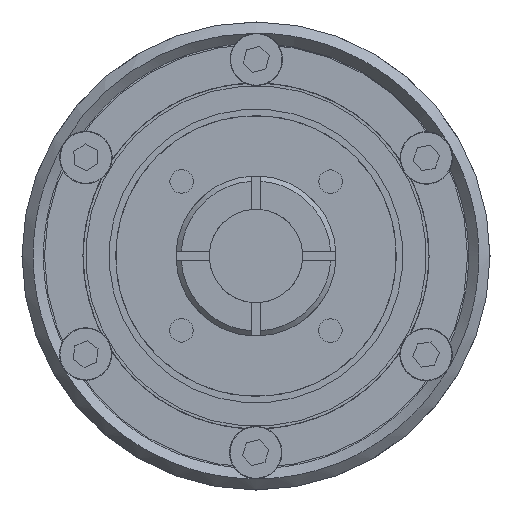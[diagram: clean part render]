
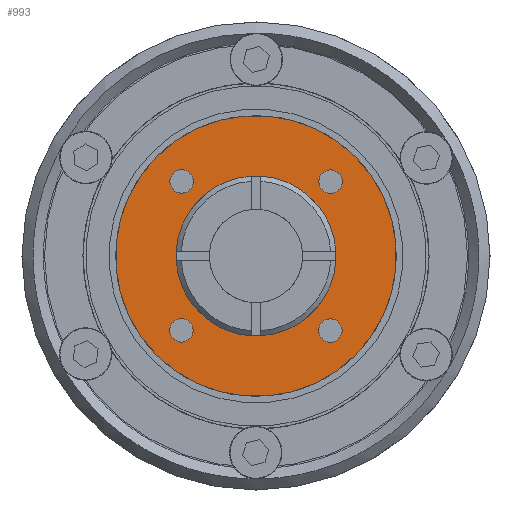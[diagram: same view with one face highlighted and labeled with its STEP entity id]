
A CAD part, left-side view. The second image highlights one B-rep face of the part: STEP entity #993.
In plain terms, the highlighted planar face has unit normal (-1, 0, 0) as drawn and (0, -1, 0) by its records, which use the part's own axes.
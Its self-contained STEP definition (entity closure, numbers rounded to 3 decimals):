
#993 = ADVANCED_FACE( '', ( #1761, #1762, #1763, #1764, #1765, #1766 ), #1767, .F. );
#1761 = FACE_OUTER_BOUND( '', #2604, .T. );
#1762 = FACE_BOUND( '', #2605, .T. );
#1763 = FACE_BOUND( '', #2606, .T. );
#1764 = FACE_BOUND( '', #2607, .T. );
#1765 = FACE_BOUND( '', #2608, .T. );
#1766 = FACE_BOUND( '', #2609, .T. );
#1767 = PLANE( '', #2610 );
#2604 = EDGE_LOOP( '', ( #4163 ) );
#2605 = EDGE_LOOP( '', ( #4164 ) );
#2606 = EDGE_LOOP( '', ( #4165 ) );
#2607 = EDGE_LOOP( '', ( #4166 ) );
#2608 = EDGE_LOOP( '', ( #4167 ) );
#2609 = EDGE_LOOP( '', ( #4168 ) );
#2610 = AXIS2_PLACEMENT_3D( '', #4169, #4170, #4171 );
#4163 = ORIENTED_EDGE( '', *, *, #5472, .T. );
#4164 = ORIENTED_EDGE( '', *, *, #5479, .F. );
#4165 = ORIENTED_EDGE( '', *, *, #5480, .F. );
#4166 = ORIENTED_EDGE( '', *, *, #5481, .F. );
#4167 = ORIENTED_EDGE( '', *, *, #5478, .F. );
#4168 = ORIENTED_EDGE( '', *, *, #5482, .F. );
#4169 = CARTESIAN_POINT( '', ( 0., 0., 15. ) );
#4170 = DIRECTION( '', ( 0., 1., 0. ) );
#4171 = DIRECTION( '', ( 1., 0., 0. ) );
#5472 = EDGE_CURVE( '', #6369, #6369, #6370, .T. );
#5478 = EDGE_CURVE( '', #6381, #6381, #6382, .T. );
#5479 = EDGE_CURVE( '', #6383, #6383, #6384, .T. );
#5480 = EDGE_CURVE( '', #6385, #6385, #6386, .T. );
#5481 = EDGE_CURVE( '', #6387, #6387, #6388, .T. );
#5482 = EDGE_CURVE( '', #6389, #6389, #6390, .T. );
#6369 = VERTEX_POINT( '', #7703 );
#6370 = CIRCLE( '', #7704, 15. );
#6381 = VERTEX_POINT( '', #7715 );
#6382 = CIRCLE( '', #7716, 1.25 );
#6383 = VERTEX_POINT( '', #7717 );
#6384 = CIRCLE( '', #7718, 1.25 );
#6385 = VERTEX_POINT( '', #7719 );
#6386 = CIRCLE( '', #7720, 1.25 );
#6387 = VERTEX_POINT( '', #7721 );
#6388 = CIRCLE( '', #7722, 1.25 );
#6389 = VERTEX_POINT( '', #7723 );
#6390 = CIRCLE( '', #7724, 8.5 );
#7703 = CARTESIAN_POINT( '', ( 0., 0., -15. ) );
#7704 = AXIS2_PLACEMENT_3D( '', #9117, #9118, #9119 );
#7715 = CARTESIAN_POINT( '', ( 1.25, 0., 11.25 ) );
#7716 = AXIS2_PLACEMENT_3D( '', #9135, #9136, #9137 );
#7717 = CARTESIAN_POINT( '', ( -11.25, 0., 1.25 ) );
#7718 = AXIS2_PLACEMENT_3D( '', #9138, #9139, #9140 );
#7719 = CARTESIAN_POINT( '', ( -1.25, 0., -11.25 ) );
#7720 = AXIS2_PLACEMENT_3D( '', #9141, #9142, #9143 );
#7721 = CARTESIAN_POINT( '', ( 11.25, 0., -1.25 ) );
#7722 = AXIS2_PLACEMENT_3D( '', #9144, #9145, #9146 );
#7723 = CARTESIAN_POINT( '', ( 0., 0., -8.5 ) );
#7724 = AXIS2_PLACEMENT_3D( '', #9147, #9148, #9149 );
#9117 = CARTESIAN_POINT( '', ( 0., 0., 0. ) );
#9118 = DIRECTION( '', ( 0., -1., 0. ) );
#9119 = DIRECTION( '', ( 0., 0., -1. ) );
#9135 = CARTESIAN_POINT( '', ( 0., 0., 11.25 ) );
#9136 = DIRECTION( '', ( 0., -1., 0. ) );
#9137 = DIRECTION( '', ( 1., 0., 0. ) );
#9138 = CARTESIAN_POINT( '', ( -11.25, 0., 0. ) );
#9139 = DIRECTION( '', ( 0., -1., 0. ) );
#9140 = DIRECTION( '', ( 0., 0., 1. ) );
#9141 = CARTESIAN_POINT( '', ( 0., 0., -11.25 ) );
#9142 = DIRECTION( '', ( 0., -1., 0. ) );
#9143 = DIRECTION( '', ( -1., 0., 0. ) );
#9144 = CARTESIAN_POINT( '', ( 11.25, 0., 0. ) );
#9145 = DIRECTION( '', ( 0., -1., 0. ) );
#9146 = DIRECTION( '', ( 0., 0., -1. ) );
#9147 = CARTESIAN_POINT( '', ( 0., 0., 0. ) );
#9148 = DIRECTION( '', ( 0., -1., 0. ) );
#9149 = DIRECTION( '', ( 0., 0., -1. ) );
